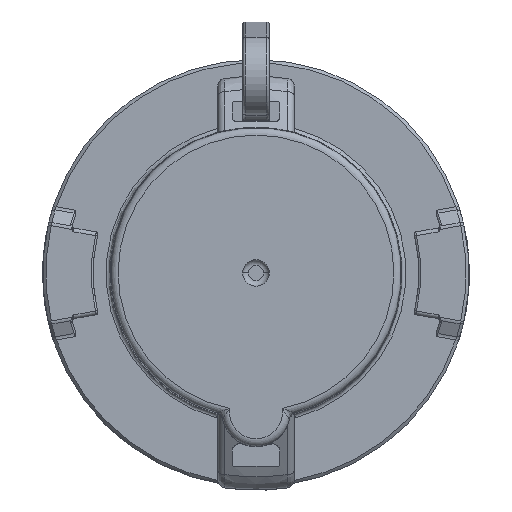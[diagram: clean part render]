
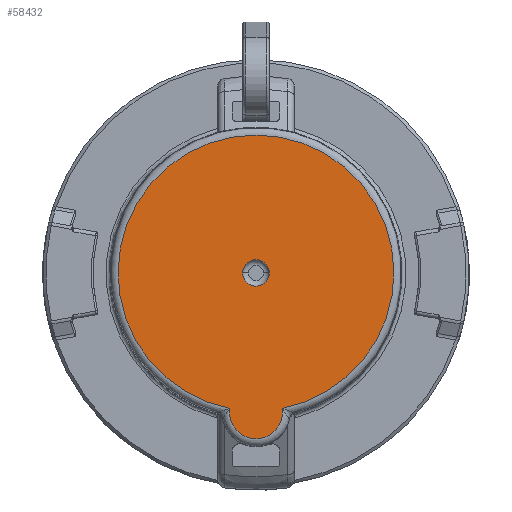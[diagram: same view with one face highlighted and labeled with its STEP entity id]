
A CAD part, top view. The second image highlights one B-rep face of the part: STEP entity #58432.
In plain terms, the highlighted planar face has unit normal (0, 0, 1).
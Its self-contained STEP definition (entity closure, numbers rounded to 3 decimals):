
#11532=CARTESIAN_POINT('',(6.913,-35.897,
74.946));
#11553=CARTESIAN_POINT('',(0.,0.,
74.946));
#11554=DIRECTION('',(0.,0.,-1.));
#11555=DIRECTION('',(-0.189,-0.982,0.));
#11556=AXIS2_PLACEMENT_3D('',#11553,#11554,#11555);
#11561=CARTESIAN_POINT('',(0.,0.,
74.946));
#11562=DIRECTION('',(0.,0.,-1.));
#11563=DIRECTION('',(-1.,0.,0.));
#11564=AXIS2_PLACEMENT_3D('',#11561,#11562,#11563);
#11569=CARTESIAN_POINT('',(0.,0.,
74.946));
#11570=DIRECTION('',(0.,0.,-1.));
#11571=DIRECTION('',(1.,0.,0.));
#11572=AXIS2_PLACEMENT_3D('',#11569,#11570,#11571);
#11593=CARTESIAN_POINT('',(-6.913,-35.897,
74.946));
#11609=CARTESIAN_POINT('',(0.,-37.,74.946));
#11610=DIRECTION('',(0.,0.,1.));
#11611=DIRECTION('',(-0.988,0.158,0.));
#11612=AXIS2_PLACEMENT_3D('',#11609,#11610,#11611);
#39922=VERTEX_POINT('',#11532);
#39924=VERTEX_POINT('',#11593);
#39938=CARTESIAN_POINT('',(-3.5,0.,74.946));
#39939=CARTESIAN_POINT('',(3.5,0.,74.946));
#39940=VERTEX_POINT('',#39938);
#39941=VERTEX_POINT('',#39939);
#58416=CARTESIAN_POINT('',(0.,0.,
74.946));
#58417=DIRECTION('',(0.,0.,1.));
#58418=DIRECTION('',(-1.,0.,0.));
#58419=AXIS2_PLACEMENT_3D('',#58416,#58417,#58418);
#58420=PLANE('1183',#58419);
#58421=ORIENTED_EDGE('4794',*,*,#58396,.T.);
#58423=ORIENTED_EDGE('4796',*,*,#58422,.F.);
#58424=EDGE_LOOP('1183',(#58421,#58423));
#58425=FACE_OUTER_BOUND('1183',#58424,.F.);
#58427=ORIENTED_EDGE('4805',*,*,#58426,.F.);
#58429=ORIENTED_EDGE('4806',*,*,#58428,.F.);
#58430=EDGE_LOOP('1183',(#58427,#58429));
#58431=FACE_BOUND('1183',#58430,.F.);
#11557=CIRCLE('4794',#11556,36.557);
#11565=CIRCLE('4805',#11564,3.5);
#11573=CIRCLE('4806',#11572,3.5);
#11613=CIRCLE('4796',#11612,7.);
#58396=EDGE_CURVE('4794',#39924,#39922,#11557,.T.);
#58422=EDGE_CURVE('4796',#39924,#39922,#11613,.T.);
#58426=EDGE_CURVE('4805',#39940,#39941,#11565,.T.);
#58428=EDGE_CURVE('4806',#39941,#39940,#11573,.T.);
#58432=ADVANCED_FACE('1183',(#58425,#58431),#58420,.T.);
